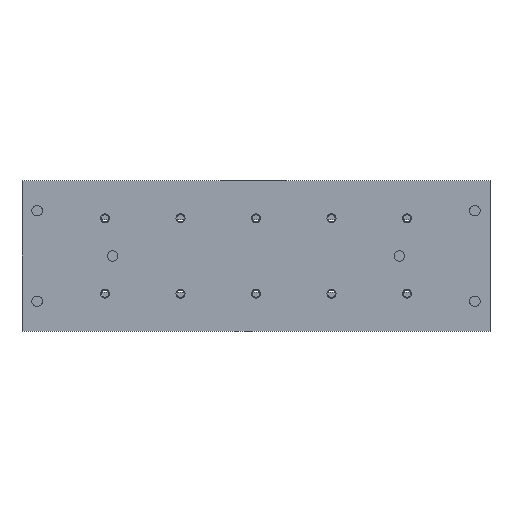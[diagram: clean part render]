
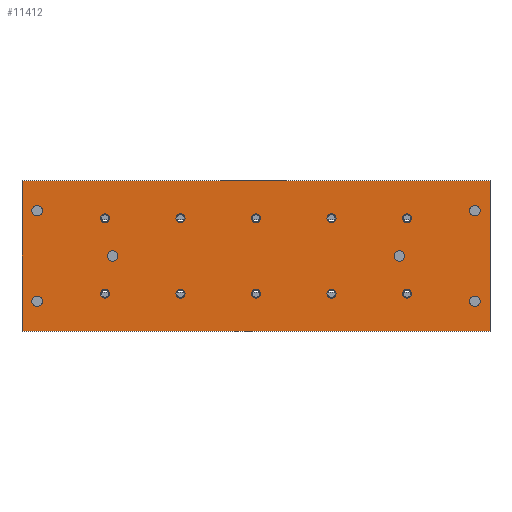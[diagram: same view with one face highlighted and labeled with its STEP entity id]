
A CAD part, front view. The second image highlights one B-rep face of the part: STEP entity #11412.
In plain terms, the highlighted planar face has unit normal (0, -1, 0).
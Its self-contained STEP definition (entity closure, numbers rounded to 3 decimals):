
#394=CIRCLE('',#12098,3.);
#395=CIRCLE('',#12099,3.);
#396=CIRCLE('',#12100,3.);
#397=CIRCLE('',#12101,3.);
#398=CIRCLE('',#12102,3.);
#399=CIRCLE('',#12103,3.);
#400=CIRCLE('',#12104,3.);
#401=CIRCLE('',#12105,3.);
#402=CIRCLE('',#12106,3.);
#403=CIRCLE('',#12107,3.);
#404=CIRCLE('',#12108,3.5);
#405=CIRCLE('',#12109,3.5);
#406=CIRCLE('',#12110,3.5);
#407=CIRCLE('',#12111,3.5);
#408=CIRCLE('',#12112,3.5);
#409=CIRCLE('',#12113,3.5);
#1192=ORIENTED_EDGE('',*,*,#4653,.F.);
#1193=ORIENTED_EDGE('',*,*,#4654,.F.);
#1194=ORIENTED_EDGE('',*,*,#4655,.F.);
#1195=ORIENTED_EDGE('',*,*,#4656,.F.);
#1196=ORIENTED_EDGE('',*,*,#4657,.F.);
#1197=ORIENTED_EDGE('',*,*,#4658,.F.);
#1198=ORIENTED_EDGE('',*,*,#4659,.F.);
#1199=ORIENTED_EDGE('',*,*,#4660,.F.);
#1200=ORIENTED_EDGE('',*,*,#4661,.F.);
#1201=ORIENTED_EDGE('',*,*,#4662,.F.);
#1202=ORIENTED_EDGE('',*,*,#4663,.F.);
#1203=ORIENTED_EDGE('',*,*,#4664,.F.);
#1204=ORIENTED_EDGE('',*,*,#4665,.T.);
#1205=ORIENTED_EDGE('',*,*,#4666,.F.);
#1206=ORIENTED_EDGE('',*,*,#4667,.F.);
#1207=ORIENTED_EDGE('',*,*,#4668,.F.);
#1208=ORIENTED_EDGE('',*,*,#4607,.T.);
#1209=ORIENTED_EDGE('',*,*,#4669,.F.);
#1210=ORIENTED_EDGE('',*,*,#4670,.F.);
#1211=ORIENTED_EDGE('',*,*,#4651,.T.);
#4607=EDGE_CURVE('',#6344,#6343,#7507,.T.);
#4651=EDGE_CURVE('',#6378,#6344,#7551,.T.);
#4653=EDGE_CURVE('',#6379,#6379,#394,.T.);
#4654=EDGE_CURVE('',#6380,#6380,#395,.T.);
#4655=EDGE_CURVE('',#6381,#6381,#396,.T.);
#4656=EDGE_CURVE('',#6382,#6382,#397,.T.);
#4657=EDGE_CURVE('',#6383,#6383,#398,.T.);
#4658=EDGE_CURVE('',#6384,#6384,#399,.T.);
#4659=EDGE_CURVE('',#6385,#6385,#400,.T.);
#4660=EDGE_CURVE('',#6386,#6386,#401,.T.);
#4661=EDGE_CURVE('',#6387,#6387,#402,.T.);
#4662=EDGE_CURVE('',#6388,#6388,#403,.T.);
#4663=EDGE_CURVE('',#6389,#6389,#404,.T.);
#4664=EDGE_CURVE('',#6390,#6390,#405,.T.);
#4665=EDGE_CURVE('',#6391,#6391,#406,.T.);
#4666=EDGE_CURVE('',#6392,#6392,#407,.T.);
#4667=EDGE_CURVE('',#6393,#6393,#408,.T.);
#4668=EDGE_CURVE('',#6394,#6394,#409,.T.);
#4669=EDGE_CURVE('',#6395,#6343,#7553,.T.);
#4670=EDGE_CURVE('',#6378,#6395,#7554,.T.);
#6343=VERTEX_POINT('',#17294);
#6344=VERTEX_POINT('',#17296);
#6378=VERTEX_POINT('',#17381);
#6379=VERTEX_POINT('',#17385);
#6380=VERTEX_POINT('',#17387);
#6381=VERTEX_POINT('',#17389);
#6382=VERTEX_POINT('',#17391);
#6383=VERTEX_POINT('',#17393);
#6384=VERTEX_POINT('',#17395);
#6385=VERTEX_POINT('',#17397);
#6386=VERTEX_POINT('',#17399);
#6387=VERTEX_POINT('',#17401);
#6388=VERTEX_POINT('',#17403);
#6389=VERTEX_POINT('',#17405);
#6390=VERTEX_POINT('',#17407);
#6391=VERTEX_POINT('',#17409);
#6392=VERTEX_POINT('',#17411);
#6393=VERTEX_POINT('',#17413);
#6394=VERTEX_POINT('',#17415);
#6395=VERTEX_POINT('',#17417);
#7507=LINE('',#17295,#8531);
#7551=LINE('',#17380,#8575);
#7553=LINE('',#17416,#8577);
#7554=LINE('',#17418,#8578);
#8531=VECTOR('',#13498,1000.);
#8575=VECTOR('',#13556,1000.);
#8577=VECTOR('',#13592,1000.);
#8578=VECTOR('',#13593,1000.);
#9537=EDGE_LOOP('',(#1192));
#9538=EDGE_LOOP('',(#1193));
#9539=EDGE_LOOP('',(#1194));
#9540=EDGE_LOOP('',(#1195));
#9541=EDGE_LOOP('',(#1196));
#9542=EDGE_LOOP('',(#1197));
#9543=EDGE_LOOP('',(#1198));
#9544=EDGE_LOOP('',(#1199));
#9545=EDGE_LOOP('',(#1200));
#9546=EDGE_LOOP('',(#1201));
#9547=EDGE_LOOP('',(#1202));
#9548=EDGE_LOOP('',(#1203));
#9549=EDGE_LOOP('',(#1204));
#9550=EDGE_LOOP('',(#1205));
#9551=EDGE_LOOP('',(#1206));
#9552=EDGE_LOOP('',(#1207));
#9553=EDGE_LOOP('',(#1208,#1209,#1210,#1211));
#10327=FACE_BOUND('',#9537,.T.);
#10328=FACE_BOUND('',#9538,.T.);
#10329=FACE_BOUND('',#9539,.T.);
#10330=FACE_BOUND('',#9540,.T.);
#10331=FACE_BOUND('',#9541,.T.);
#10332=FACE_BOUND('',#9542,.T.);
#10333=FACE_BOUND('',#9543,.T.);
#10334=FACE_BOUND('',#9544,.T.);
#10335=FACE_BOUND('',#9545,.T.);
#10336=FACE_BOUND('',#9546,.T.);
#10337=FACE_BOUND('',#9547,.T.);
#10338=FACE_BOUND('',#9548,.T.);
#10339=FACE_BOUND('',#9549,.T.);
#10340=FACE_BOUND('',#9550,.T.);
#10341=FACE_BOUND('',#9551,.T.);
#10342=FACE_BOUND('',#9552,.T.);
#10343=FACE_BOUND('',#9553,.T.);
#11117=PLANE('',#12097);
#11412=ADVANCED_FACE('',(#10327,#10328,#10329,#10330,#10331,#10332,#10333,
#10334,#10335,#10336,#10337,#10338,#10339,#10340,#10341,#10342,#10343),
#11117,.F.);
#12097=AXIS2_PLACEMENT_3D('',#17383,#13558,#13559);
#12098=AXIS2_PLACEMENT_3D('',#17384,#13560,#13561);
#12099=AXIS2_PLACEMENT_3D('',#17386,#13562,#13563);
#12100=AXIS2_PLACEMENT_3D('',#17388,#13564,#13565);
#12101=AXIS2_PLACEMENT_3D('',#17390,#13566,#13567);
#12102=AXIS2_PLACEMENT_3D('',#17392,#13568,#13569);
#12103=AXIS2_PLACEMENT_3D('',#17394,#13570,#13571);
#12104=AXIS2_PLACEMENT_3D('',#17396,#13572,#13573);
#12105=AXIS2_PLACEMENT_3D('',#17398,#13574,#13575);
#12106=AXIS2_PLACEMENT_3D('',#17400,#13576,#13577);
#12107=AXIS2_PLACEMENT_3D('',#17402,#13578,#13579);
#12108=AXIS2_PLACEMENT_3D('',#17404,#13580,#13581);
#12109=AXIS2_PLACEMENT_3D('',#17406,#13582,#13583);
#12110=AXIS2_PLACEMENT_3D('',#17408,#13584,#13585);
#12111=AXIS2_PLACEMENT_3D('',#17410,#13586,#13587);
#12112=AXIS2_PLACEMENT_3D('',#17412,#13588,#13589);
#12113=AXIS2_PLACEMENT_3D('',#17414,#13590,#13591);
#13498=DIRECTION('',(0.,0.,-1.));
#13556=DIRECTION('',(-1.,0.,0.));
#13558=DIRECTION('',(0.,1.,0.));
#13559=DIRECTION('',(0.,0.,1.));
#13560=DIRECTION('',(0.,-1.,0.));
#13561=DIRECTION('',(0.,0.,-1.));
#13562=DIRECTION('',(0.,-1.,0.));
#13563=DIRECTION('',(0.,0.,-1.));
#13564=DIRECTION('',(0.,-1.,0.));
#13565=DIRECTION('',(0.,0.,-1.));
#13566=DIRECTION('',(0.,-1.,0.));
#13567=DIRECTION('',(0.,0.,-1.));
#13568=DIRECTION('',(0.,-1.,0.));
#13569=DIRECTION('',(0.,0.,-1.));
#13570=DIRECTION('',(0.,-1.,0.));
#13571=DIRECTION('',(0.,0.,-1.));
#13572=DIRECTION('',(0.,-1.,0.));
#13573=DIRECTION('',(0.,0.,-1.));
#13574=DIRECTION('',(0.,-1.,0.));
#13575=DIRECTION('',(0.,0.,-1.));
#13576=DIRECTION('',(0.,-1.,0.));
#13577=DIRECTION('',(0.,0.,-1.));
#13578=DIRECTION('',(0.,-1.,0.));
#13579=DIRECTION('',(0.,0.,-1.));
#13580=DIRECTION('',(0.,-1.,0.));
#13581=DIRECTION('',(0.,0.,-1.));
#13582=DIRECTION('',(0.,-1.,0.));
#13583=DIRECTION('',(0.,0.,-1.));
#13584=DIRECTION('',(0.,1.,0.));
#13585=DIRECTION('',(0.,0.,1.));
#13586=DIRECTION('',(0.,-1.,0.));
#13587=DIRECTION('',(0.,0.,-1.));
#13588=DIRECTION('',(0.,-1.,0.));
#13589=DIRECTION('',(0.,0.,-1.));
#13590=DIRECTION('',(0.,-1.,0.));
#13591=DIRECTION('',(0.,0.,-1.));
#13592=DIRECTION('',(-1.,0.,0.));
#13593=DIRECTION('',(0.,0.,-1.));
#17294=CARTESIAN_POINT('',(0.,0.,-49.7));
#17295=CARTESIAN_POINT('',(0.,0.,49.7));
#17296=CARTESIAN_POINT('',(0.,0.,49.7));
#17380=CARTESIAN_POINT('',(310.,0.,49.7));
#17381=CARTESIAN_POINT('',(310.,0.,49.7));
#17383=CARTESIAN_POINT('',(310.,0.,49.7));
#17384=CARTESIAN_POINT('',(55.,0.,-25.));
#17385=CARTESIAN_POINT('',(55.,0.,-28.));
#17386=CARTESIAN_POINT('',(55.,0.,25.));
#17387=CARTESIAN_POINT('',(55.,0.,22.));
#17388=CARTESIAN_POINT('',(255.,0.,-25.));
#17389=CARTESIAN_POINT('',(255.,0.,-28.));
#17390=CARTESIAN_POINT('',(255.,0.,25.));
#17391=CARTESIAN_POINT('',(255.,0.,22.));
#17392=CARTESIAN_POINT('',(205.,0.,-25.));
#17393=CARTESIAN_POINT('',(205.,0.,-28.));
#17394=CARTESIAN_POINT('',(205.,0.,25.));
#17395=CARTESIAN_POINT('',(205.,0.,22.));
#17396=CARTESIAN_POINT('',(105.,0.,-25.));
#17397=CARTESIAN_POINT('',(105.,0.,-28.));
#17398=CARTESIAN_POINT('',(105.,0.,25.));
#17399=CARTESIAN_POINT('',(105.,0.,22.));
#17400=CARTESIAN_POINT('',(155.,0.,-25.));
#17401=CARTESIAN_POINT('',(155.,0.,-28.));
#17402=CARTESIAN_POINT('',(155.,0.,25.));
#17403=CARTESIAN_POINT('',(155.,0.,22.));
#17404=CARTESIAN_POINT('',(250.,0.,0.));
#17405=CARTESIAN_POINT('',(250.,0.,-3.5));
#17406=CARTESIAN_POINT('',(60.,0.,0.));
#17407=CARTESIAN_POINT('',(60.,0.,-3.5));
#17408=CARTESIAN_POINT('',(300.,0.,30.));
#17409=CARTESIAN_POINT('',(300.,0.,33.5));
#17410=CARTESIAN_POINT('',(300.,0.,-30.));
#17411=CARTESIAN_POINT('',(300.,0.,-33.5));
#17412=CARTESIAN_POINT('',(10.,0.,-30.));
#17413=CARTESIAN_POINT('',(10.,0.,-33.5));
#17414=CARTESIAN_POINT('',(10.,0.,30.));
#17415=CARTESIAN_POINT('',(10.,0.,26.5));
#17416=CARTESIAN_POINT('',(310.,0.,-49.7));
#17417=CARTESIAN_POINT('',(310.,0.,-49.7));
#17418=CARTESIAN_POINT('',(310.,0.,49.7));
